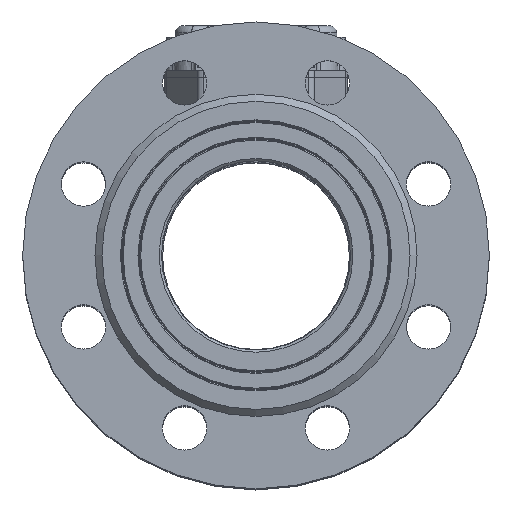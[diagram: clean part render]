
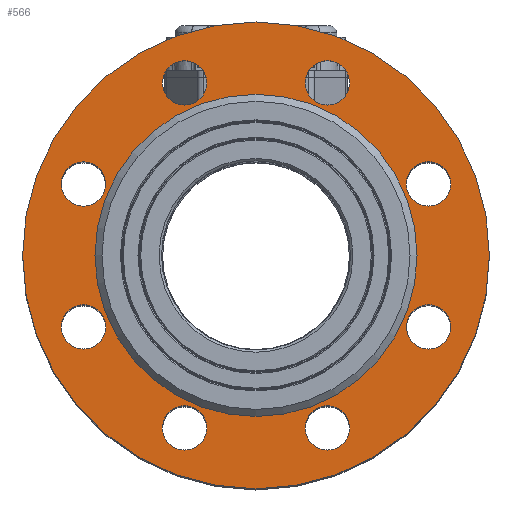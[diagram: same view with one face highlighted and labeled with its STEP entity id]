
A CAD part, top view. The second image highlights one B-rep face of the part: STEP entity #566.
In plain terms, the highlighted planar face has unit normal (0, 0, 1).
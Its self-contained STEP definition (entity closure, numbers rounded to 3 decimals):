
#566 = ADVANCED_FACE( '', ( #1401, #1402, #1403, #1404, #1405, #1406, #1407, #1408, #1409, #1410 ), #1411, .T. );
#1401 = FACE_BOUND( '', #3929, .T. );
#1402 = FACE_BOUND( '', #3930, .T. );
#1403 = FACE_BOUND( '', #3931, .T. );
#1404 = FACE_BOUND( '', #3932, .T. );
#1405 = FACE_BOUND( '', #3933, .T. );
#1406 = FACE_BOUND( '', #3934, .T. );
#1407 = FACE_BOUND( '', #3935, .T. );
#1408 = FACE_BOUND( '', #3936, .T. );
#1409 = FACE_BOUND( '', #3937, .T. );
#1410 = FACE_OUTER_BOUND( '', #3938, .T. );
#1411 = PLANE( '', #3939 );
#3929 = EDGE_LOOP( '', ( #8657 ) );
#3930 = EDGE_LOOP( '', ( #8658 ) );
#3931 = EDGE_LOOP( '', ( #8659 ) );
#3932 = EDGE_LOOP( '', ( #8660 ) );
#3933 = EDGE_LOOP( '', ( #8661 ) );
#3934 = EDGE_LOOP( '', ( #8662 ) );
#3935 = EDGE_LOOP( '', ( #8663 ) );
#3936 = EDGE_LOOP( '', ( #8664 ) );
#3937 = EDGE_LOOP( '', ( #8665 ) );
#3938 = EDGE_LOOP( '', ( #8666 ) );
#3939 = AXIS2_PLACEMENT_3D( '', #8667, #8668, #8669 );
#8657 = ORIENTED_EDGE( '', *, *, #11045, .F. );
#8658 = ORIENTED_EDGE( '', *, *, #11212, .F. );
#8659 = ORIENTED_EDGE( '', *, *, #11213, .F. );
#8660 = ORIENTED_EDGE( '', *, *, #11214, .F. );
#8661 = ORIENTED_EDGE( '', *, *, #11215, .F. );
#8662 = ORIENTED_EDGE( '', *, *, #11216, .F. );
#8663 = ORIENTED_EDGE( '', *, *, #11217, .F. );
#8664 = ORIENTED_EDGE( '', *, *, #11218, .F. );
#8665 = ORIENTED_EDGE( '', *, *, #10971, .T. );
#8666 = ORIENTED_EDGE( '', *, *, #11219, .F. );
#8667 = CARTESIAN_POINT( '', ( 0., -100., 297. ) );
#8668 = DIRECTION( '', ( 0., 0., 1. ) );
#8669 = DIRECTION( '', ( 1., 0., 0. ) );
#10971 = EDGE_CURVE( '', #12054, #12054, #12055, .T. );
#11045 = EDGE_CURVE( '', #12187, #12187, #12188, .T. );
#11212 = EDGE_CURVE( '', #12472, #12472, #12473, .T. );
#11213 = EDGE_CURVE( '', #12474, #12474, #12475, .T. );
#11214 = EDGE_CURVE( '', #12476, #12476, #12477, .T. );
#11215 = EDGE_CURVE( '', #12478, #12478, #12479, .T. );
#11216 = EDGE_CURVE( '', #12480, #12480, #12481, .T. );
#11217 = EDGE_CURVE( '', #12482, #12482, #12483, .T. );
#11218 = EDGE_CURVE( '', #12484, #12484, #12485, .T. );
#11219 = EDGE_CURVE( '', #12486, #12486, #12487, .T. );
#12054 = VERTEX_POINT( '', #13609 );
#12055 = CIRCLE( '', #13610, 69. );
#12187 = VERTEX_POINT( '', #13842 );
#12188 = CIRCLE( '', #13843, 9.5 );
#12472 = VERTEX_POINT( '', #14432 );
#12473 = CIRCLE( '', #14433, 9.5 );
#12474 = VERTEX_POINT( '', #14434 );
#12475 = CIRCLE( '', #14435, 9.5 );
#12476 = VERTEX_POINT( '', #14436 );
#12477 = CIRCLE( '', #14437, 9.5 );
#12478 = VERTEX_POINT( '', #14438 );
#12479 = CIRCLE( '', #14439, 9.5 );
#12480 = VERTEX_POINT( '', #14440 );
#12481 = CIRCLE( '', #14441, 9.5 );
#12482 = VERTEX_POINT( '', #14442 );
#12483 = CIRCLE( '', #14443, 9.5 );
#12484 = VERTEX_POINT( '', #14444 );
#12485 = CIRCLE( '', #14445, 9.5 );
#12486 = VERTEX_POINT( '', #14446 );
#12487 = CIRCLE( '', #14447, 100. );
#13609 = CARTESIAN_POINT( '', ( -69., 0., 297. ) );
#13610 = AXIS2_PLACEMENT_3D( '', #16792, #16793, #16794 );
#13842 = CARTESIAN_POINT( '', ( 83.406, 30.626, 297. ) );
#13843 = AXIS2_PLACEMENT_3D( '', #16896, #16897, #16898 );
#14432 = CARTESIAN_POINT( '', ( 40.103, -73.915, 297. ) );
#14433 = AXIS2_PLACEMENT_3D( '', #17175, #17176, #17177 );
#14434 = CARTESIAN_POINT( '', ( -64.406, -30.626, 297. ) );
#14435 = AXIS2_PLACEMENT_3D( '', #17178, #17179, #17180 );
#14436 = CARTESIAN_POINT( '', ( -21.103, 73.915, 297. ) );
#14437 = AXIS2_PLACEMENT_3D( '', #17181, #17182, #17183 );
#14438 = CARTESIAN_POINT( '', ( 40.115, 73.91, 297. ) );
#14439 = AXIS2_PLACEMENT_3D( '', #17184, #17185, #17186 );
#14440 = CARTESIAN_POINT( '', ( 83.41, -30.615, 297. ) );
#14441 = AXIS2_PLACEMENT_3D( '', #17187, #17188, #17189 );
#14442 = CARTESIAN_POINT( '', ( -21.115, -73.91, 297. ) );
#14443 = AXIS2_PLACEMENT_3D( '', #17190, #17191, #17192 );
#14444 = CARTESIAN_POINT( '', ( -64.41, 30.615, 297. ) );
#14445 = AXIS2_PLACEMENT_3D( '', #17193, #17194, #17195 );
#14446 = CARTESIAN_POINT( '', ( -100., 0., 297. ) );
#14447 = AXIS2_PLACEMENT_3D( '', #17196, #17197, #17198 );
#16792 = CARTESIAN_POINT( '', ( 0., 0., 297. ) );
#16793 = DIRECTION( '', ( 0., 0., -1. ) );
#16794 = DIRECTION( '', ( -1., 0., 0. ) );
#16896 = CARTESIAN_POINT( '', ( 73.906, 30.626, 297. ) );
#16897 = DIRECTION( '', ( 0., 0., 1. ) );
#16898 = DIRECTION( '', ( 1., 0., 0. ) );
#17175 = CARTESIAN_POINT( '', ( 30.603, -73.915, 297. ) );
#17176 = DIRECTION( '', ( 0., 0., 1. ) );
#17177 = DIRECTION( '', ( 1., 0., 0. ) );
#17178 = CARTESIAN_POINT( '', ( -73.906, -30.626, 297. ) );
#17179 = DIRECTION( '', ( 0., 0., 1. ) );
#17180 = DIRECTION( '', ( 1., 0., 0. ) );
#17181 = CARTESIAN_POINT( '', ( -30.603, 73.915, 297. ) );
#17182 = DIRECTION( '', ( 0., 0., 1. ) );
#17183 = DIRECTION( '', ( 1., 0., 0. ) );
#17184 = CARTESIAN_POINT( '', ( 30.615, 73.91, 297. ) );
#17185 = DIRECTION( '', ( 0., 0., 1. ) );
#17186 = DIRECTION( '', ( 1., 0., 0. ) );
#17187 = CARTESIAN_POINT( '', ( 73.91, -30.615, 297. ) );
#17188 = DIRECTION( '', ( 0., 0., 1. ) );
#17189 = DIRECTION( '', ( 1., 0., 0. ) );
#17190 = CARTESIAN_POINT( '', ( -30.615, -73.91, 297. ) );
#17191 = DIRECTION( '', ( 0., 0., 1. ) );
#17192 = DIRECTION( '', ( 1., 0., 0. ) );
#17193 = CARTESIAN_POINT( '', ( -73.91, 30.615, 297. ) );
#17194 = DIRECTION( '', ( 0., 0., 1. ) );
#17195 = DIRECTION( '', ( 1., 0., 0. ) );
#17196 = CARTESIAN_POINT( '', ( 0., 0., 297. ) );
#17197 = DIRECTION( '', ( 0., 0., -1. ) );
#17198 = DIRECTION( '', ( -1., 0., 0. ) );
